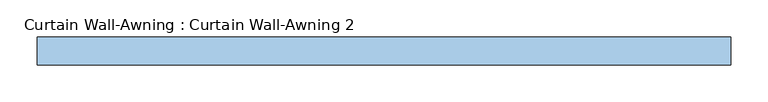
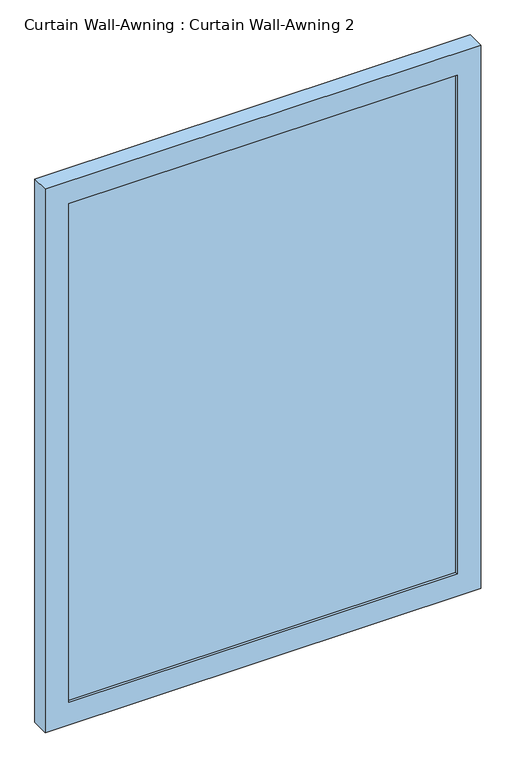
"""IFC4 building model written with IfcOpenShell, lengths in millimetres: window geometry, Curtain Wall-Awning : Curtain Wall-Awning 2."""

import ifcopenshell
import ifcopenshell.guid

model = None  # the IFC model being written
_history = None  # IfcOwnerHistory: only IFC2X3 demands one
_inside = {}  # id of a spatial element -> (the spatial element, [elements in it])
_under = {}  # id of a project, library or spatial element -> (it, [spatial elements below it])
_declared = {}  # id of a project -> (the project, [libraries it declares])
_typed = {}  # id of a type object -> (the type object, [elements of that type])
_made_of = {}  # id of a material, layer set ... -> (it, [elements and type objects made of it])


def new_model(schema):
    """Start an empty IFC model of exactly this schema.

    Asked for "IFC4X3", IfcOpenShell would pick the latest addendum, in which some entities
    have other attributes; the version numbers below select the first issue.
    IFC2X3 requires an IfcOwnerHistory on every rooted entity: one is made here for all.
    """
    global model, _history
    if schema == "IFC4X3":
        model = ifcopenshell.file(schema_version=(4, 3, 0, 0))
    else:
        model = ifcopenshell.file(schema=schema)
    _inside.clear()
    _under.clear()
    _declared.clear()
    _typed.clear()
    _made_of.clear()
    _history = None
    if model.schema == "IFC2X3":
        org = make("IfcOrganization", Name="unknown")
        user = make(
            "IfcPersonAndOrganization",
            ThePerson=make("IfcPerson", FamilyName="unknown"),
            TheOrganization=org,
        )
        app = make(
            "IfcApplication",
            ApplicationDeveloper=org,
            Version="unknown",
            ApplicationFullName="unknown",
            ApplicationIdentifier="unknown",
        )
        _history = make(
            "IfcOwnerHistory",
            OwningUser=user,
            OwningApplication=app,
            ChangeAction="ADDED",
            CreationDate=0,
        )
    return model


def make(cls, **values):
    """One entity of the class cls with the attributes given. An attribute that is None is left unset."""
    return model.create_entity(
        cls, **{name: value for name, value in values.items() if value is not None}
    )


def rooted(cls, **values):
    """An entity with a GlobalId (a new one), such as an element, a storey or a relation."""
    return make(cls, GlobalId=ifcopenshell.guid.new(), OwnerHistory=_history, **values)


def si_unit(unit_type, name, prefix=None):
    """IfcSIUnit, for example si_unit("LENGTHUNIT", "METRE", prefix="MILLI")."""
    return make("IfcSIUnit", UnitType=unit_type, Prefix=prefix, Name=name)


def assignment(units):
    """IfcUnitAssignment: the units of a project."""
    return None if units is None else make("IfcUnitAssignment", Units=units)


def point(xyz):
    """IfcCartesianPoint."""
    return None if xyz is None else make("IfcCartesianPoint", Coordinates=xyz)


def direction(xyz):
    """IfcDirection."""
    return None if xyz is None else make("IfcDirection", DirectionRatios=xyz)


def frame(location, z_axis=None, x_axis=None):
    """IfcAxis2Placement3D, a coordinate frame: its origin and axes. An axis left out is left unset."""
    return make(
        "IfcAxis2Placement3D",
        Location=point(location),
        Axis=direction(z_axis),
        RefDirection=direction(x_axis),
    )


def origin():
    """The frame at (0, 0, 0) with its axes left unset."""
    return frame((0.0, 0.0, 0.0))


def place(relative_to, where):
    """IfcLocalPlacement: puts the frame where relative to a parent placement (None: the world)."""
    return make(
        "IfcLocalPlacement", PlacementRelTo=relative_to, RelativePlacement=where
    )


def context(
    kind, dimensions, precision=None, world=None, true_north=None, identifier=None
):
    """IfcGeometricRepresentationContext, for example the 3D "Model" context."""
    return make(
        "IfcGeometricRepresentationContext",
        ContextIdentifier=identifier,
        ContextType=kind,
        CoordinateSpaceDimension=dimensions,
        Precision=precision,
        WorldCoordinateSystem=world,
        TrueNorth=true_north,
    )


def project(units=None, contexts=None):
    """IfcProject with its units and contexts."""
    return rooted(
        "IfcProject",
        Name="project",
        RepresentationContexts=contexts,
        UnitsInContext=assignment(units),
    )


def spatial(cls, under=None, at=None, **own):
    """A site, building, storey or space (cls), placed at a placement, below another one or the project."""
    s = rooted(cls, ObjectPlacement=at, **own)
    if under is not None:
        _under.setdefault(under.id(), (under, []))[1].append(s)
    return s


def polyline(points):
    """IfcPolyline through the points."""
    return make("IfcPolyline", Points=[point(p) for p in points])


def outline(outer, holes=None, kind="AREA"):
    """IfcArbitraryClosedProfileDef: a profile drawn as a closed curve; with holes, ...WithVoids."""
    if holes is None:
        return make("IfcArbitraryClosedProfileDef", ProfileType=kind, OuterCurve=outer)
    return make(
        "IfcArbitraryProfileDefWithVoids",
        ProfileType=kind,
        OuterCurve=outer,
        InnerCurves=holes,
    )


def extrude(swept, where, along, depth):
    """IfcExtrudedAreaSolid: the profile swept, set in the frame where, extruded along a direction by depth."""
    return make(
        "IfcExtrudedAreaSolid",
        SweptArea=swept,
        Position=where,
        ExtrudedDirection=direction(along),
        Depth=depth,
    )


def shape(context_of_items, identifier, shape_type, items):
    """IfcShapeRepresentation: the items that make up one representation, for example the "Body"."""
    return make(
        "IfcShapeRepresentation",
        ContextOfItems=context_of_items,
        RepresentationIdentifier=identifier,
        RepresentationType=shape_type,
        Items=items,
    )


def source(mapping_origin, context_of_items, identifier, shape_type, items):
    """IfcRepresentationMap: a shape defined once, which mapped items show again and again."""
    return make(
        "IfcRepresentationMap",
        MappingOrigin=mapping_origin,
        MappedRepresentation=shape(context_of_items, identifier, shape_type, items),
    )


def transform(
    local_origin,
    x_axis=None,
    y_axis=None,
    z_axis=None,
    scale=None,
    scale2=None,
    scale3=None,
    uniform=True,
):
    """IfcCartesianTransformationOperator3D, or its non-uniform kind. x_axis, y_axis, z_axis: its Axis1, 2, 3."""
    if uniform:
        return make(
            "IfcCartesianTransformationOperator3D",
            Axis1=direction(x_axis),
            Axis2=direction(y_axis),
            LocalOrigin=point(local_origin),
            Scale=scale,
            Axis3=direction(z_axis),
        )
    return make(
        "IfcCartesianTransformationOperator3DnonUniform",
        Axis1=direction(x_axis),
        Axis2=direction(y_axis),
        LocalOrigin=point(local_origin),
        Scale=scale,
        Axis3=direction(z_axis),
        Scale2=scale2,
        Scale3=scale3,
    )


def mapped(mapping_source, mapping_target):
    """IfcMappedItem: shows the shape of a source again, moved by a transform."""
    return make(
        "IfcMappedItem", MappingSource=mapping_source, MappingTarget=mapping_target
    )


def made_of(thing, what):
    """Note that an element or type object is made of a material, layer set ...; save() writes the relation."""
    if what is not None:
        _made_of.setdefault(what.id(), (what, []))[1].append(thing)
    return thing


def element(
    cls,
    number,
    at=None,
    inside=None,
    cuts=None,
    type_object=None,
    material=None,
    context=None,
    identifier="Body",
    shape_type=None,
    held_by="IfcProductDefinitionShape",
    body=None,
    shapes=None,
    **own,
):
    """One element of the class cls, such as IfcWall. Its Tag is "e" and its number.

    at: its placement. inside: the storey or other place that contains it. cuts: it is an
    opening in that element (IfcRelVoidsElement). A single representation is given by context,
    identifier, shape_type and body (its items); several are given by shapes. held_by: the class
    of the entity that holds the representations. save() writes the other relations.
    """
    e = rooted(cls, Tag="e%d" % number, ObjectPlacement=at, **own)
    if body is not None:
        shapes = [shape(context, identifier, shape_type, body)]
    if shapes is not None:
        e.Representation = make(held_by, Representations=shapes)
    if inside is not None:
        _inside.setdefault(inside.id(), (inside, []))[1].append(e)
    if cuts is not None:
        rooted(
            "IfcRelVoidsElement", RelatingBuildingElement=cuts, RelatedOpeningElement=e
        )
    if type_object is not None:
        _typed.setdefault(type_object.id(), (type_object, []))[1].append(e)
    return made_of(e, material)


def aggregate(whole, parts):
    """IfcRelAggregates: a whole, such as a stair, and the parts it consists of."""
    return rooted("IfcRelAggregates", RelatingObject=whole, RelatedObjects=parts)


def save(model, path):
    """Write the relations noted so far, then the file.

    IfcRelAggregates (storeys below a building ...), IfcRelContainedInSpatialStructure (elements
    in a storey), IfcRelDefinesByType, IfcRelAssociatesMaterial and IfcRelDeclares: one each for
    every whole, place, type object, material and project.
    """
    for whole, parts in _under.values():
        aggregate(whole, parts)
    for where, things in _inside.values():
        rooted(
            "IfcRelContainedInSpatialStructure",
            RelatedElements=things,
            RelatingStructure=where,
        )
    for kind, things in _typed.values():
        rooted("IfcRelDefinesByType", RelatedObjects=things, RelatingType=kind)
    for what, things in _made_of.values():
        rooted("IfcRelAssociatesMaterial", RelatedObjects=things, RelatingMaterial=what)
    for by, libraries in _declared.values():
        rooted("IfcRelDeclares", RelatingContext=by, RelatedDefinitions=libraries)
    model.write(path)


def curtain_wall_awning_curtain_wall_awning_2_605577ea(model_context):
    return source(origin(), model_context, "Body", "SweptSolid", [
        extrude(outline(polyline([(417.5125, 19.05), (417.5125, 6.35), (-417.5125, 6.35), (-417.5125, 19.05), (417.5125, 19.05)])), frame((0.0, 0.0, 50.8), z_axis=(0.0, 0.0, 1.0), x_axis=(1.0, 0.0, 0.0)), (0.0, 0.0, 1.0), 1134.635445),
        extrude(outline(polyline([(1236.235445, -468.3125), (0.0, -468.3125), (0.0, 468.3125), (1236.235445, 468.3125), (1236.235445, -468.3125)]), holes=[polyline([(1185.435445, -417.5125), (1185.435445, 417.5125), (50.8, 417.5125), (50.8, -417.5125), (1185.435445, -417.5125)])]), frame((0.0, 0.0, 0.0), z_axis=(0.0, 1.0, 0.0), x_axis=(0.0, 0.0, 1.0)), (0.0, 0.0, 1.0), 38.1),
    ])


if __name__ == "__main__":
    model = new_model("IFC4")
    model_context = context("Model", 3, world=origin())
    ifc_project = project(units=[si_unit("LENGTHUNIT", "METRE", prefix="MILLI")], contexts=[model_context])
    site = spatial("IfcSite", under=ifc_project)
    building = spatial("IfcBuilding", under=site)
    placement = place(None, origin())
    curtain_wall_awning_curtain_wall_awning_2_shape = curtain_wall_awning_curtain_wall_awning_2_605577ea(model_context)
    element("IfcWindow", 1, ObjectType="Curtain Wall-Awning : Curtain Wall-Awning 2", at=placement, inside=building, context=model_context, shape_type="MappedRepresentation", body=[
        mapped(curtain_wall_awning_curtain_wall_awning_2_shape, transform((0.0, 0.0, 0.0), x_axis=(1.0, 0.0, 0.0), y_axis=(0.0, 1.0, 0.0), z_axis=(0.0, 0.0, 1.0))),
    ])
    save(model, "model.ifc")
